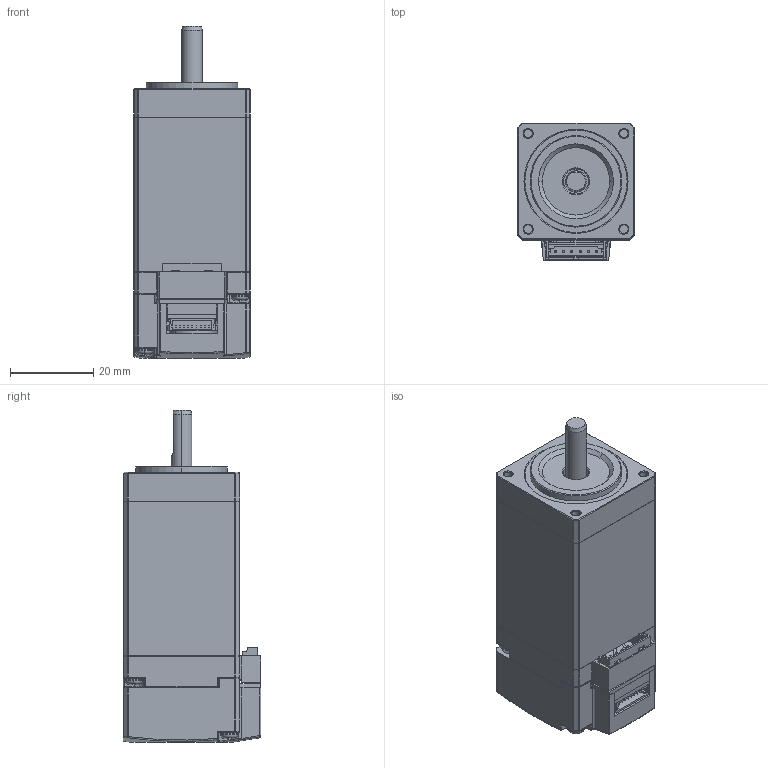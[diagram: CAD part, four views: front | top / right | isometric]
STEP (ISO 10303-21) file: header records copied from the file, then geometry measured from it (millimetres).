
FILE_DESCRIPTION (( 'STEP AP214' ), '1' );
FILE_NAME ('DW11-310-E2000.STEP', '2023-04-20T08:40:57', ( '' ), ( '' ), 'SwSTEP 2.0', 'SolidWorks 2018', '' );
FILE_SCHEMA (( 'AUTOMOTIVE_DESIGN' ));
Length unit declared in the file: millimetre
Products named in the file (14): 70-M2.5QH-46（球头螺钉 镀黑锌）_70-M2.5QH-46; 51-281（XQ28绝缘罩）_51-281; 30-28101E.1_ ; 02-2852M-001_ ; 11-2852A-013; 21-2821-37.1（28-37.1-1.8 定子珩磨）_21-2821-37.1; 71-206（13-0.2波垫）_71-200; 70-M2.5QH-59（球头螺钉 镀黑锌）_70-M2.5QH-59; 64-019 （MOLEX 53253-0670）_64-019; 65-600（28线路板 旭泉正转）_65-600; DW11-310-E2000; 03-28REK4（1000CPR）; 01-2852A-013-1_ ; 30-28201E.1-4_30-28201E.1-4
Assembly tree (15 placements, depth 3):
  DW11-310-E2000
    30-28201E.1-4_30-28201E.1-4
    02-2852M-001_ 
      21-2821-37.1（28-37.1-1.8 定子珩磨）_21-2821-37.1
    30-28101E.1_ 
    51-281（XQ28绝缘罩）_51-281
    70-M2.5QH-46（球头螺钉 镀黑锌）_70-M2.5QH-46  x2
    01-2852A-013-1_ 
      11-2852A-013
    64-019 （MOLEX 53253-0670）_64-019
    65-600（28线路板 旭泉正转）_65-600
    03-28REK4（1000CPR）
    70-M2.5QH-59（球头螺钉 镀黑锌）_70-M2.5QH-59  x2
    71-206（13-0.2波垫）_71-200
Bounding box: 28.04 x 33.07 x 79.8 mm (x, y, z)
Volume: 27879.5 mm3; surface area: 35908.3 mm2
Topology: 19 solids, 19 shells, 2479 faces, 6518 edges, 4184 vertices
Faces by surface type: plane 1196, cylinder 725, bspline 359, torus 124, cone 57, sphere 18
Entity records: 99595 total; most frequent: CARTESIAN_POINT 30897, ORIENTED_EDGE 12608, DIRECTION 11324, EDGE_CURVE 6304, VERTEX_POINT 4066, VECTOR 3850, LINE 3850, AXIS2_PLACEMENT_3D 3737
